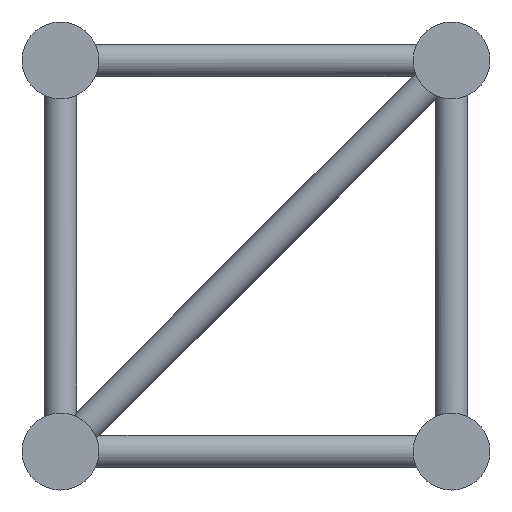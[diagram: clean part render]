
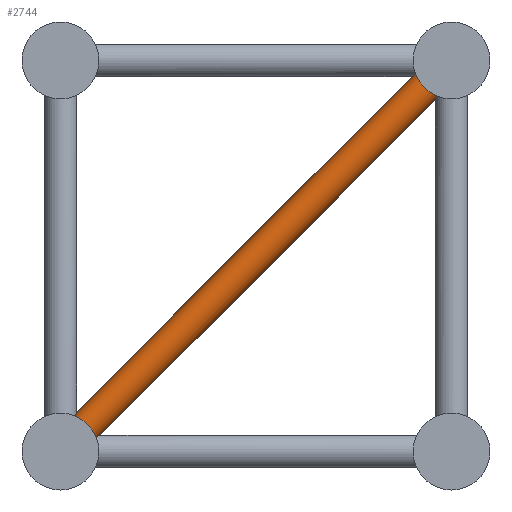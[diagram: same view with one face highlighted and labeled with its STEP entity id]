
A CAD part, left-side view. The second image highlights one B-rep face of the part: STEP entity #2744.
In plain terms, the highlighted cylindrical face has radius 12.5 mm (diameter 25 mm), a full revolution.
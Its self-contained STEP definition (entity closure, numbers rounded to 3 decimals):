
#30=ELLIPSE('',#2998,32.664,12.5);
#31=ELLIPSE('',#3001,32.664,12.5);
#32=ELLIPSE('',#3004,17.678,12.5);
#33=ELLIPSE('',#3005,17.678,12.5);
#34=ELLIPSE('',#3006,32.664,12.5);
#35=ELLIPSE('',#3007,17.678,12.5);
#36=ELLIPSE('',#3008,17.678,12.5);
#37=ELLIPSE('',#3009,32.664,12.5);
#136=FACE_BOUND('',#716,.T.);
#443=FACE_OUTER_BOUND('',#715,.T.);
#715=EDGE_LOOP('',(#2072,#2073,#2074,#2075,#2076,#2077));
#716=EDGE_LOOP('',(#2078,#2079,#2080,#2081,#2082,#2083,#2084,#2085,#2086,
#2087,#2088,#2089));
#987=CIRCLE('',#2992,12.5);
#988=CIRCLE('',#2993,12.5);
#989=CIRCLE('',#2995,12.5);
#990=CIRCLE('',#2996,12.5);
#991=CIRCLE('',#2999,12.5);
#992=CIRCLE('',#3000,12.5);
#993=CIRCLE('',#3002,12.5);
#994=CIRCLE('',#3003,12.5);
#1094=B_SPLINE_CURVE_WITH_KNOTS('',3,(#5648,#5649,#5650,#5651,#5652,#5653),
 .UNSPECIFIED.,.F.,.F.,(4,2,4),(1.913,1.922,1.93),
 .UNSPECIFIED.);
#1095=B_SPLINE_CURVE_WITH_KNOTS('',3,(#5657,#5658,#5659,#5660,#5661,#5662),
 .UNSPECIFIED.,.F.,.F.,(4,2,4),(5.757,5.766,5.774),
 .UNSPECIFIED.);
#1244=VERTEX_POINT('',#5646);
#1245=VERTEX_POINT('',#5647);
#1246=VERTEX_POINT('',#5654);
#1247=VERTEX_POINT('',#5656);
#1286=VERTEX_POINT('',#6642);
#1287=VERTEX_POINT('',#6643);
#1342=VERTEX_POINT('',#7741);
#1343=VERTEX_POINT('',#7742);
#1344=VERTEX_POINT('',#7747);
#1345=VERTEX_POINT('',#7748);
#1346=VERTEX_POINT('',#7753);
#1347=VERTEX_POINT('',#7754);
#1348=VERTEX_POINT('',#7757);
#1349=VERTEX_POINT('',#7759);
#1350=VERTEX_POINT('',#7763);
#1351=VERTEX_POINT('',#7765);
#1352=VERTEX_POINT('',#7767);
#1353=VERTEX_POINT('',#7770);
#1486=EDGE_CURVE('',#1244,#1245,#1094,.T.);
#1488=EDGE_CURVE('',#1246,#1247,#1095,.T.);
#1626=EDGE_CURVE('',#1342,#1244,#987,.T.);
#1627=EDGE_CURVE('',#1247,#1343,#988,.T.);
#1629=EDGE_CURVE('',#1344,#1246,#989,.T.);
#1630=EDGE_CURVE('',#1245,#1345,#990,.T.);
#1631=EDGE_CURVE('',#1346,#1347,#30,.T.);
#1632=EDGE_CURVE('',#1287,#1346,#991,.T.);
#1633=EDGE_CURVE('',#1348,#1287,#992,.T.);
#1634=EDGE_CURVE('',#1349,#1348,#31,.T.);
#1635=EDGE_CURVE('',#1286,#1349,#993,.T.);
#1636=EDGE_CURVE('',#1347,#1286,#994,.T.);
#1637=EDGE_CURVE('',#1345,#1350,#32,.T.);
#1638=EDGE_CURVE('',#1351,#1342,#33,.T.);
#1639=EDGE_CURVE('',#1352,#1351,#34,.T.);
#1640=EDGE_CURVE('',#1343,#1352,#35,.T.);
#1641=EDGE_CURVE('',#1353,#1344,#36,.T.);
#1642=EDGE_CURVE('',#1350,#1353,#37,.T.);
#2072=ORIENTED_EDGE('',*,*,#1631,.F.);
#2073=ORIENTED_EDGE('',*,*,#1632,.F.);
#2074=ORIENTED_EDGE('',*,*,#1633,.F.);
#2075=ORIENTED_EDGE('',*,*,#1634,.F.);
#2076=ORIENTED_EDGE('',*,*,#1635,.F.);
#2077=ORIENTED_EDGE('',*,*,#1636,.F.);
#2078=ORIENTED_EDGE('',*,*,#1637,.F.);
#2079=ORIENTED_EDGE('',*,*,#1630,.F.);
#2080=ORIENTED_EDGE('',*,*,#1486,.F.);
#2081=ORIENTED_EDGE('',*,*,#1626,.F.);
#2082=ORIENTED_EDGE('',*,*,#1638,.F.);
#2083=ORIENTED_EDGE('',*,*,#1639,.F.);
#2084=ORIENTED_EDGE('',*,*,#1640,.F.);
#2085=ORIENTED_EDGE('',*,*,#1627,.F.);
#2086=ORIENTED_EDGE('',*,*,#1488,.F.);
#2087=ORIENTED_EDGE('',*,*,#1629,.F.);
#2088=ORIENTED_EDGE('',*,*,#1641,.F.);
#2089=ORIENTED_EDGE('',*,*,#1642,.F.);
#2450=CYLINDRICAL_SURFACE('',#2997,12.5);
#2744=ADVANCED_FACE('',(#443,#136),#2450,.T.);
#2992=AXIS2_PLACEMENT_3D('',#7744,#3482,#3483);
#2993=AXIS2_PLACEMENT_3D('',#7745,#3484,#3485);
#2995=AXIS2_PLACEMENT_3D('',#7750,#3489,#3490);
#2996=AXIS2_PLACEMENT_3D('',#7751,#3491,#3492);
#2997=AXIS2_PLACEMENT_3D('',#7752,#3493,#3494);
#2998=AXIS2_PLACEMENT_3D('',#7755,#3495,#3496);
#2999=AXIS2_PLACEMENT_3D('',#7756,#3497,#3498);
#3000=AXIS2_PLACEMENT_3D('',#7758,#3499,#3500);
#3001=AXIS2_PLACEMENT_3D('',#7760,#3501,#3502);
#3002=AXIS2_PLACEMENT_3D('',#7761,#3503,#3504);
#3003=AXIS2_PLACEMENT_3D('',#7762,#3505,#3506);
#3004=AXIS2_PLACEMENT_3D('',#7764,#3507,#3508);
#3005=AXIS2_PLACEMENT_3D('',#7766,#3509,#3510);
#3006=AXIS2_PLACEMENT_3D('',#7768,#3511,#3512);
#3007=AXIS2_PLACEMENT_3D('',#7769,#3513,#3514);
#3008=AXIS2_PLACEMENT_3D('',#7771,#3515,#3516);
#3009=AXIS2_PLACEMENT_3D('',#7772,#3517,#3518);
#3482=DIRECTION('center_axis',(0.,-0.707,
0.707));
#3483=DIRECTION('ref_axis',(0.,0.707,0.707));
#3484=DIRECTION('center_axis',(0.,-0.707,
0.707));
#3485=DIRECTION('ref_axis',(0.,0.707,0.707));
#3489=DIRECTION('center_axis',(0.,-0.707,
0.707));
#3490=DIRECTION('ref_axis',(0.,0.707,0.707));
#3491=DIRECTION('center_axis',(0.,-0.707,
0.707));
#3492=DIRECTION('ref_axis',(0.,0.707,0.707));
#3493=DIRECTION('center_axis',(0.,-0.707,
0.707));
#3494=DIRECTION('ref_axis',(0.,0.707,0.707));
#3495=DIRECTION('center_axis',(0.,0.924,0.383));
#3496=DIRECTION('ref_axis',(0.,-0.383,0.924));
#3497=DIRECTION('center_axis',(0.,0.707,
-0.707));
#3498=DIRECTION('ref_axis',(0.,0.707,0.707));
#3499=DIRECTION('center_axis',(0.,0.707,
-0.707));
#3500=DIRECTION('ref_axis',(0.,0.707,0.707));
#3501=DIRECTION('center_axis',(0.,-0.383,-0.924));
#3502=DIRECTION('ref_axis',(0.,0.924,-0.383));
#3503=DIRECTION('center_axis',(0.,0.707,
-0.707));
#3504=DIRECTION('ref_axis',(0.,0.707,0.707));
#3505=DIRECTION('center_axis',(0.,0.707,
-0.707));
#3506=DIRECTION('ref_axis',(0.,0.707,0.707));
#3507=DIRECTION('center_axis',(0.,0.,
-1.));
#3508=DIRECTION('ref_axis',(0.,1.,0.));
#3509=DIRECTION('center_axis',(0.,1.,0.));
#3510=DIRECTION('ref_axis',(0.,0.,1.));
#3511=DIRECTION('center_axis',(0.,0.383,0.924));
#3512=DIRECTION('ref_axis',(0.,0.924,-0.383));
#3513=DIRECTION('center_axis',(0.,1.,0.));
#3514=DIRECTION('ref_axis',(0.,0.,1.));
#3515=DIRECTION('center_axis',(0.,0.,
-1.));
#3516=DIRECTION('ref_axis',(0.,1.,0.));
#3517=DIRECTION('center_axis',(0.,-0.924,
-0.383));
#3518=DIRECTION('ref_axis',(0.,-0.383,0.924));
#5646=CARTESIAN_POINT('',(80.,17.738,-17.617));
#5647=CARTESIAN_POINT('',(80.,17.617,-17.738));
#5648=CARTESIAN_POINT('Ctrl Pts',(80.,17.738,-17.617));
#5649=CARTESIAN_POINT('Ctrl Pts',(80.,17.718,-17.638));
#5650=CARTESIAN_POINT('Ctrl Pts',(80.,17.698,-17.658));
#5651=CARTESIAN_POINT('Ctrl Pts',(80.,17.658,-17.698));
#5652=CARTESIAN_POINT('Ctrl Pts',(80.,17.638,-17.718));
#5653=CARTESIAN_POINT('Ctrl Pts',(80.,17.617,-17.738));
#5654=CARTESIAN_POINT('',(105.,17.617,-17.738));
#5656=CARTESIAN_POINT('',(105.,17.738,-17.617));
#5657=CARTESIAN_POINT('Ctrl Pts',(105.,17.617,-17.738));
#5658=CARTESIAN_POINT('Ctrl Pts',(105.,17.638,-17.718));
#5659=CARTESIAN_POINT('Ctrl Pts',(105.,17.658,-17.698));
#5660=CARTESIAN_POINT('Ctrl Pts',(105.,17.698,-17.658));
#5661=CARTESIAN_POINT('Ctrl Pts',(105.,17.718,-17.638));
#5662=CARTESIAN_POINT('Ctrl Pts',(105.,17.738,-17.617));
#6642=CARTESIAN_POINT('',(105.,281.322,-281.322));
#6643=CARTESIAN_POINT('',(80.,281.322,-281.322));
#7741=CARTESIAN_POINT('',(85.499,25.,-10.355));
#7742=CARTESIAN_POINT('',(99.501,25.,-10.355));
#7744=CARTESIAN_POINT('Origin',(92.5,17.678,-17.678));
#7745=CARTESIAN_POINT('Origin',(92.5,17.678,-17.678));
#7747=CARTESIAN_POINT('',(99.501,10.355,-25.));
#7748=CARTESIAN_POINT('',(85.499,10.355,-25.));
#7750=CARTESIAN_POINT('Origin',(92.5,17.678,-17.678));
#7751=CARTESIAN_POINT('Origin',(92.5,17.678,-17.678));
#7752=CARTESIAN_POINT('Origin',(92.5,281.322,-281.322));
#7753=CARTESIAN_POINT('',(85.499,288.645,-274.));
#7754=CARTESIAN_POINT('',(99.501,288.645,-274.));
#7755=CARTESIAN_POINT('Origin',(92.5,299.,-299.));
#7756=CARTESIAN_POINT('Origin',(92.5,281.322,-281.322));
#7757=CARTESIAN_POINT('',(85.499,274.,-288.645));
#7758=CARTESIAN_POINT('Origin',(92.5,281.322,-281.322));
#7759=CARTESIAN_POINT('',(99.501,274.,-288.645));
#7760=CARTESIAN_POINT('Origin',(92.5,299.,-299.));
#7761=CARTESIAN_POINT('Origin',(92.5,281.322,-281.322));
#7762=CARTESIAN_POINT('Origin',(92.5,281.322,-281.322));
#7763=CARTESIAN_POINT('',(85.499,10.355,-25.));
#7764=CARTESIAN_POINT('Origin',(92.5,25.,-25.));
#7765=CARTESIAN_POINT('',(85.499,25.,-10.355));
#7766=CARTESIAN_POINT('Origin',(92.5,25.,-25.));
#7767=CARTESIAN_POINT('',(99.501,25.,-10.355));
#7768=CARTESIAN_POINT('Origin',(92.5,0.,0.));
#7769=CARTESIAN_POINT('Origin',(92.5,25.,-25.));
#7770=CARTESIAN_POINT('',(99.501,10.355,-25.));
#7771=CARTESIAN_POINT('Origin',(92.5,25.,-25.));
#7772=CARTESIAN_POINT('Origin',(92.5,0.,0.));
